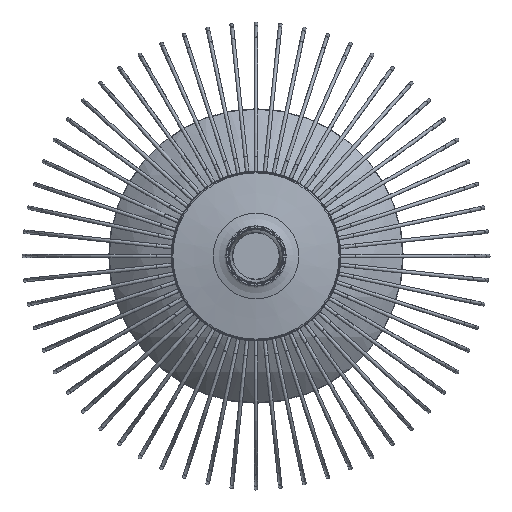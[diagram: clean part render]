
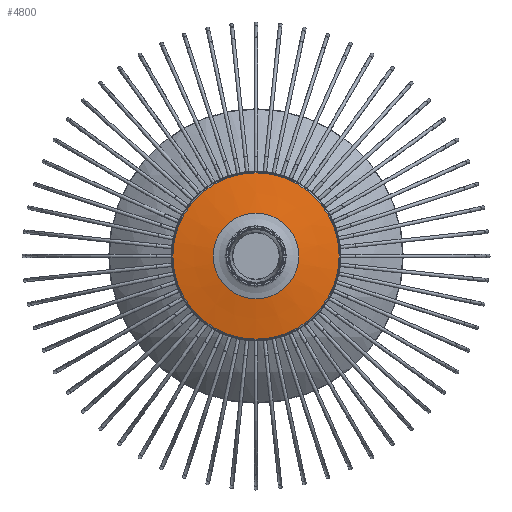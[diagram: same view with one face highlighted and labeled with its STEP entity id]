
A CAD part, front view. The second image highlights one B-rep face of the part: STEP entity #4800.
In plain terms, the highlighted conical face has half-angle 80 degrees and reference radius 60.112 mm.
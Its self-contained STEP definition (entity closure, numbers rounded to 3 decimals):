
#2890 = DIRECTION ( 'NONE',  ( 0., 1., 0. ) ) ;
#4800 = ADVANCED_FACE ( 'NONE', ( #74538, #69307 ), #77090, .T. ) ;
#5177 = EDGE_LOOP ( 'NONE', ( #27071 ) ) ;
#17938 = AXIS2_PLACEMENT_3D ( 'NONE', #18789, #49817, #74327 ) ;
#18789 = CARTESIAN_POINT ( 'NONE',  ( 0., -315.261, 0. ) ) ;
#19376 = ORIENTED_EDGE ( 'NONE', *, *, #27171, .T. ) ;
#25190 = VERTEX_POINT ( 'NONE', #32056 ) ;
#25655 = CARTESIAN_POINT ( 'NONE',  ( 0., -320.33, 30.567 ) ) ;
#27071 = ORIENTED_EDGE ( 'NONE', *, *, #35115, .T. ) ;
#27171 = EDGE_CURVE ( 'NONE', #51094, #51094, #59609, .T. ) ;
#29636 = EDGE_LOOP ( 'NONE', ( #19376 ) ) ;
#32023 = AXIS2_PLACEMENT_3D ( 'NONE', #74927, #2890, #32656 ) ;
#32056 = CARTESIAN_POINT ( 'NONE',  ( 0., -315.261, -59.314 ) ) ;
#32656 = DIRECTION ( 'NONE',  ( 0., 0., 1. ) ) ;
#35115 = EDGE_CURVE ( 'NONE', #25190, #25190, #39789, .T. ) ;
#39789 = CIRCLE ( 'NONE', #17938, 59.314 ) ;
#49817 = DIRECTION ( 'NONE',  ( 0., -1., 0. ) ) ;
#51094 = VERTEX_POINT ( 'NONE', #25655 ) ;
#51900 = AXIS2_PLACEMENT_3D ( 'NONE', #57278, #67741, #55677 ) ;
#55677 = DIRECTION ( 'NONE',  ( 0., 0., 1. ) ) ;
#57278 = CARTESIAN_POINT ( 'NONE',  ( 0., -320.33, 0. ) ) ;
#59609 = CIRCLE ( 'NONE', #51900, 30.567 ) ;
#67741 = DIRECTION ( 'NONE',  ( 0., 1., 0. ) ) ;
#69307 = FACE_BOUND ( 'NONE', #29636, .T. ) ;
#74327 = DIRECTION ( 'NONE',  ( 0., 0., -1. ) ) ;
#74538 = FACE_OUTER_BOUND ( 'NONE', #5177, .T. ) ;
#74927 = CARTESIAN_POINT ( 'NONE',  ( 0., -315.12, 0. ) ) ;
#77090 = CONICAL_SURFACE ( 'NONE', #32023, 60.112, 1.396 ) ;
